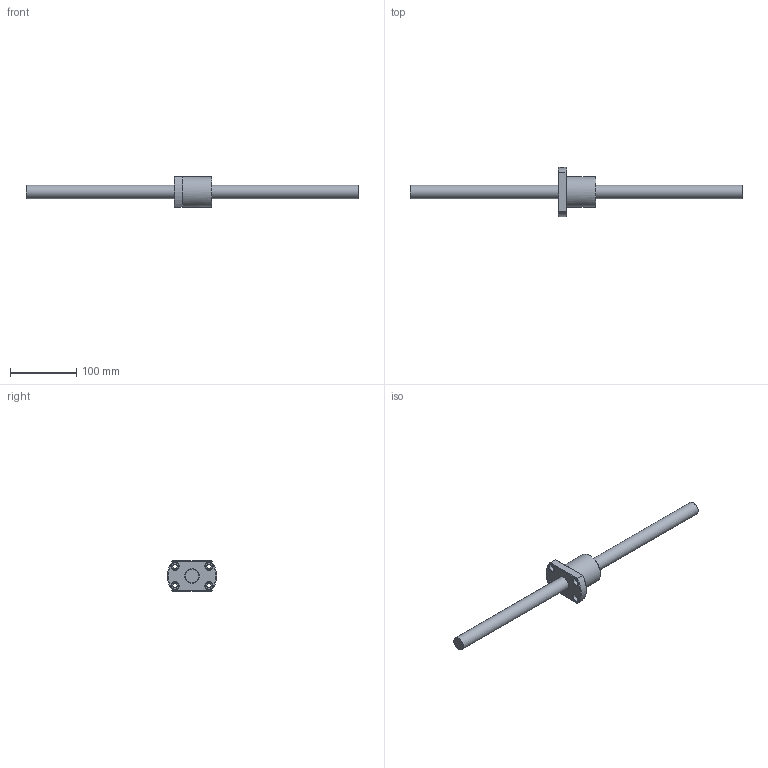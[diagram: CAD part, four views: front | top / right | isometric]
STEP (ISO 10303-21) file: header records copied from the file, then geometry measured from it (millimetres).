
FILE_DESCRIPTION (( 'STEP AP203' ), '1' );
FILE_NAME ('SFV02010D-2.7.step', '2024-05-20T03:37:49', ( '' ), ( '' ), 'SwSTEP 2.0', 'SolidWorks 2022', '' );
FILE_SCHEMA (( 'CONFIG_CONTROL_DESIGN' ));
Length unit declared in the file: millimetre
Products named in the file (1): SFV02010D-2.7
Bounding box: 500 x 74 x 46 mm (x, y, z)
Volume: 245098.8 mm3; surface area: 51953.2 mm2
Topology: 2 solids, 2 shells, 59 faces, 143 edges, 92 vertices
Faces by surface type: cylinder 21, plane 19, cone 9, torus 5, bspline 5
Full cylindrical faces by diameter (mm): 4 x1, 5 x6, 6.6 x4, 11 x4, 20 x1, 22.3 x1, 46 x1
Entity records: 3245 total; most frequent: CARTESIAN_POINT 2132, DIRECTION 202, ORIENTED_EDGE 184, EDGE_CURVE 92, EDGE_LOOP 92, AXIS2_PLACEMENT_3D 91, VERTEX_POINT 72, FACE_OUTER_BOUND 67
